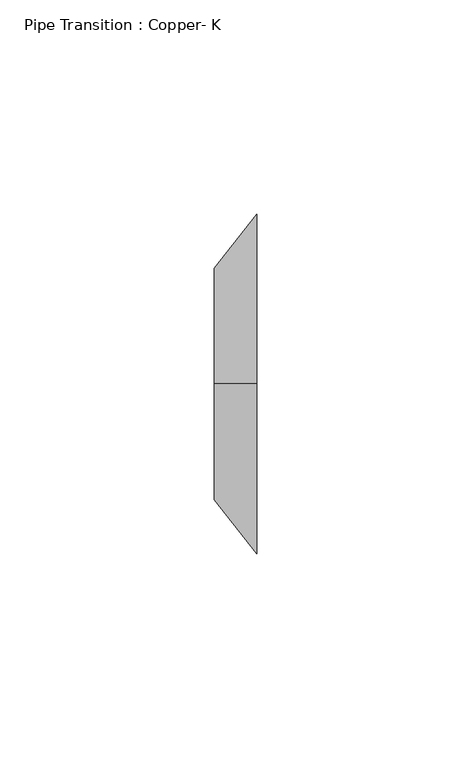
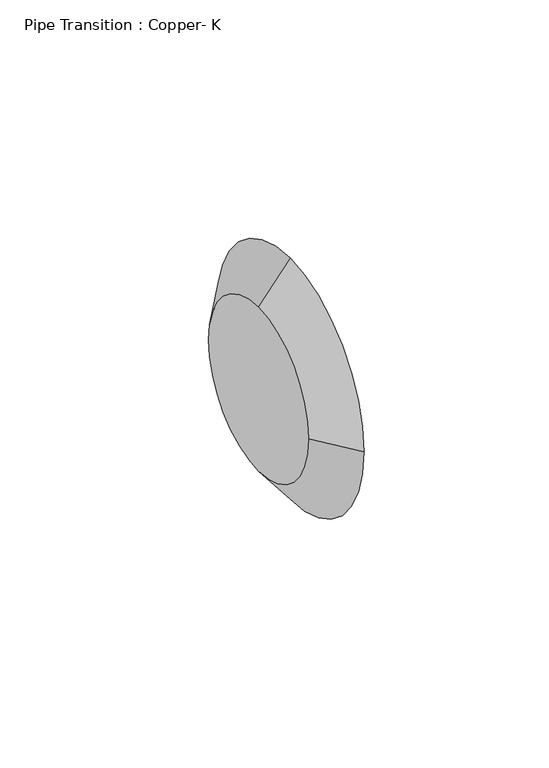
"""IFC4 building model written with IfcOpenShell, lengths in millimetres: pipe fitting geometry, Pipe Transition : Copper- K."""

from ifc_helpers import new_model, si_unit, frame, origin, place, context, project, spatial, polyline, circle_curve, source, transform, mapped, element, save
from ifc_brep_helpers import plane_surface, revolved_surface, advanced_brep


def pipe_transition_copper_k_3cb08e53(model_context):
    return source(origin(), model_context, "Body", "AdvancedBrep", [
        advanced_brep(
        [(9.921875, 0.0, 39.6875), (9.921875, -39.6875, 0.0), (9.921875, 0.0, -39.6875), (9.921875, 39.6875, 0.0), (0.0, 0.0, 26.9875), (0.0, 26.9875, 0.0), (0.0, 0.0, -26.9875), (0.0, -26.9875, 0.0)],
        [
            (0, 1, circle_curve(frame((9.921875, 0.0, 0.0), z_axis=(1.0, 0.0, 0.0), x_axis=(0.0, 0.0, 1.0)), 39.6875)),
            (1, 2, circle_curve(frame((9.921875, 0.0, 0.0), z_axis=(1.0, 0.0, 0.0), x_axis=(0.0, -1.0, 0.0)), 39.6875)),
            (2, 3, circle_curve(frame((9.921875, 0.0, 0.0), z_axis=(1.0, 0.0, 0.0), x_axis=(0.0, 0.0, -1.0)), 39.6875)),
            (3, 0, circle_curve(frame((9.921875, 0.0, 0.0), z_axis=(1.0, 0.0, 0.0), x_axis=(0.0, 1.0, 0.0)), 39.6875)),
            (4, 5, circle_curve(frame((0.0, 0.0, 0.0), z_axis=(-1.0, 0.0, 0.0), x_axis=(0.0, 1.0, 0.0)), 26.9875)),
            (5, 6, circle_curve(frame((0.0, 0.0, 0.0), z_axis=(-1.0, 0.0, 0.0), x_axis=(0.0, 0.0, -1.0)), 26.9875)),
            (6, 7, circle_curve(frame((0.0, 0.0, 0.0), z_axis=(-1.0, 0.0, 0.0), x_axis=(0.0, -1.0, 0.0)), 26.9875)),
            (7, 4, circle_curve(frame((0.0, 0.0, 0.0), z_axis=(-1.0, 0.0, 0.0), x_axis=(0.0, 0.0, 1.0)), 26.9875)),
            (7, 1),
            (0, 4),
            (6, 2),
            (5, 3),
        ],
        [
            plane_surface(frame((9.921875, 0.0, 0.0), z_axis=(1.0, 0.0, 0.0), x_axis=(0.0, -1.0, 0.0))),
            plane_surface(frame((0.0, 0.0, 0.0), z_axis=(-1.0, 0.0, 0.0), x_axis=(0.0, -1.0, 0.0))),
            revolved_surface(polyline([(0.0, -26.98750001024, 0.0), (9.921875, -39.6875, 0.0)]), (-21.0839844, 0.0, 0.0), (1.0, 0.0, 0.0)),
            revolved_surface(polyline([(0.0, 0.0, -26.98750001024), (9.921875, 0.0, -39.6875)]), (-21.0839844, 0.0, 0.0), (1.0, 0.0, 0.0)),
            revolved_surface(polyline([(0.0, 26.98750001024, 0.0), (9.921875, 39.6875, 0.0)]), (-21.0839844, 0.0, 0.0), (1.0, 0.0, 0.0)),
            revolved_surface(polyline([(0.0, 0.0, 26.98750001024), (9.921875, 0.0, 39.6875)]), (-21.0839844, 0.0, 0.0), (1.0, 0.0, 0.0)),
        ],
        [
            (0, [[1, 2, 3, 4]]),
            (1, [[5, 6, 7, 8]]),
            (2, [[-8, 9, -1, 10]]),
            (3, [[-7, 11, -2, -9]]),
            (4, [[-6, 12, -3, -11]]),
            (5, [[-5, -10, -4, -12]]),
        ],
    ),
        advanced_brep(
        [(9.921875, 0.0, 39.6875), (9.921875, -39.6875, 0.0), (9.921875, 0.0, -39.6875), (9.921875, 39.6875, 0.0), (0.0, 0.0, 26.9875), (0.0, 26.9875, 0.0), (0.0, 0.0, -26.9875), (0.0, -26.9875, 0.0)],
        [
            (0, 1, circle_curve(frame((9.921875, 0.0, 0.0), z_axis=(1.0, 0.0, 0.0), x_axis=(0.0, 0.0, 1.0)), 39.6875)),
            (1, 2, circle_curve(frame((9.921875, 0.0, 0.0), z_axis=(1.0, 0.0, 0.0), x_axis=(0.0, -1.0, 0.0)), 39.6875)),
            (2, 3, circle_curve(frame((9.921875, 0.0, 0.0), z_axis=(1.0, 0.0, -1.3192778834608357e-12), x_axis=(-1.3192648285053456e-12, 0.0, -1.0)), 39.6875)),
            (3, 0, circle_curve(frame((9.921875, 0.0, 0.0), z_axis=(1.0, 0.0, 0.0), x_axis=(0.0, 1.0, 0.0)), 39.6875)),
            (4, 5, circle_curve(frame((0.0, 0.0, 0.0), z_axis=(-1.0, 0.0, 0.0), x_axis=(0.0, 1.0, 0.0)), 26.9875)),
            (5, 6, circle_curve(frame((0.0, 0.0, 0.0), z_axis=(-1.0, 0.0, 1.3192778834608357e-12), x_axis=(-1.3192648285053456e-12, 0.0, -1.0)), 26.9875)),
            (6, 7, circle_curve(frame((0.0, 0.0, 0.0), z_axis=(-1.0, 0.0, 0.0), x_axis=(0.0, -1.0, 0.0)), 26.9875)),
            (7, 4, circle_curve(frame((0.0, 0.0, 0.0), z_axis=(-1.0, 0.0, 0.0), x_axis=(0.0, 0.0, 1.0)), 26.9875)),
            (7, 1),
            (0, 4),
            (6, 2),
            (5, 3),
        ],
        [
            plane_surface(frame((9.921875, 0.0, 0.0), z_axis=(1.0, 0.0, 0.0), x_axis=(0.0, -1.0, 0.0))),
            plane_surface(frame((0.0, 0.0, 0.0), z_axis=(-1.0, 0.0, 0.0), x_axis=(0.0, -1.0, 0.0))),
            revolved_surface(polyline([(0.0, -26.98750001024, 0.0), (9.921875, -39.6875, 0.0)]), (-21.0839844, 0.0, 0.0), (1.0, 0.0, 0.0)),
            revolved_surface(polyline([(0.0, 0.0, -26.98750001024), (9.921875, 0.0, -39.6875)]), (-21.0839844, 0.0, 0.0), (1.0, 0.0, 0.0)),
            revolved_surface(polyline([(0.0, 26.98750001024, 0.0), (9.921875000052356, 39.68750000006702, 0.0)]), (-21.0839844, 0.0, 0.0), (1.0, 0.0, -1.3192778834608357e-12)),
            revolved_surface(polyline([(0.0, 0.0, 26.98750001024), (9.921875, 0.0, 39.6875)]), (-21.0839844, 0.0, 0.0), (1.0, 0.0, 0.0)),
        ],
        [
            (0, [[1, 2, 3, 4]]),
            (1, [[5, 6, 7, 8]]),
            (2, [[-8, 9, -1, 10]]),
            (3, [[-7, 11, -2, -9]]),
            (4, [[-6, 12, -3, -11]]),
            (5, [[-5, -10, -4, -12]]),
        ],
    ),
    ])


if __name__ == "__main__":
    model = new_model("IFC4")
    model_context = context("Model", 3, world=origin())
    ifc_project = project(units=[si_unit("LENGTHUNIT", "METRE", prefix="MILLI")], contexts=[model_context])
    site = spatial("IfcSite", under=ifc_project)
    building = spatial("IfcBuilding", under=site)
    placement = place(None, origin())
    pipe_transition_copper_k_shape = pipe_transition_copper_k_3cb08e53(model_context)
    element("IfcPipeFitting", 1, ObjectType="Pipe Transition : Copper- K", at=placement, inside=building, context=model_context, shape_type="MappedRepresentation", body=[
        mapped(pipe_transition_copper_k_shape, transform((0.0, 0.0, 0.0), x_axis=(1.0, 0.0, 0.0), y_axis=(0.0, 1.0, 0.0), z_axis=(0.0, 0.0, 1.0))),
    ])
    save(model, "model.ifc")
